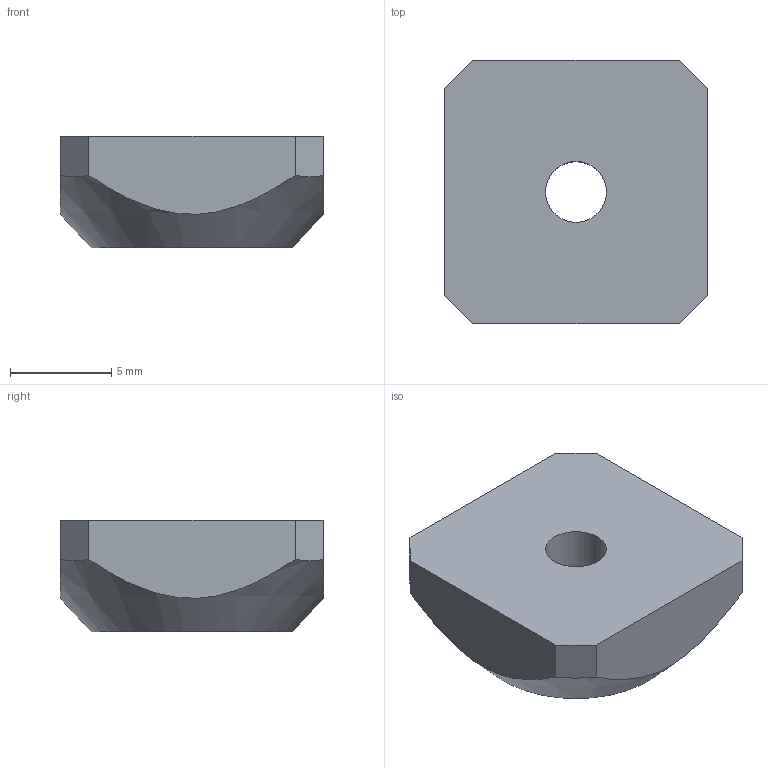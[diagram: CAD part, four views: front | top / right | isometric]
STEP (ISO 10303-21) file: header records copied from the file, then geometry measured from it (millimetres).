
FILE_DESCRIPTION((''),'2;1');
FILE_NAME('C:\Documents and Settings\Administrator\My Documents\Andys Backup Data\STEP LIBRARIES\MINITEC STEP LIBRARIES\FASTENING ELEMENTS\NUTS\21.1309 M3 SQUARE NUT.stp','2008-10-29T14:58:43',('Administrator'),(''),'Autodesk Inventor 2009','Autodesk Inventor 2009','');
FILE_SCHEMA(('AUTOMOTIVE_DESIGN { 1 0 10303 214 1 1 1 1 }'));
Length unit declared in the file: millimetre
Products named in the file (1): 21.1309 M3
Bounding box: 13 x 13 x 5.5 mm (x, y, z)
Volume: 745.5 mm3; surface area: 554.9 mm2
Topology: 1 solids, 1 shells, 12 faces, 30 edges, 20 vertices
Faces by surface type: plane 10, cone 1, cylinder 1
Full cylindrical faces by diameter (mm): 3 x1
Entity records: 360 total; most frequent: CARTESIAN_POINT 75, ORIENTED_EDGE 54, DIRECTION 48, EDGE_CURVE 27, VERTEX_POINT 19, AXIS2_PLACEMENT_3D 16, EDGE_LOOP 16, VECTOR 16
